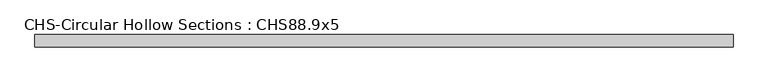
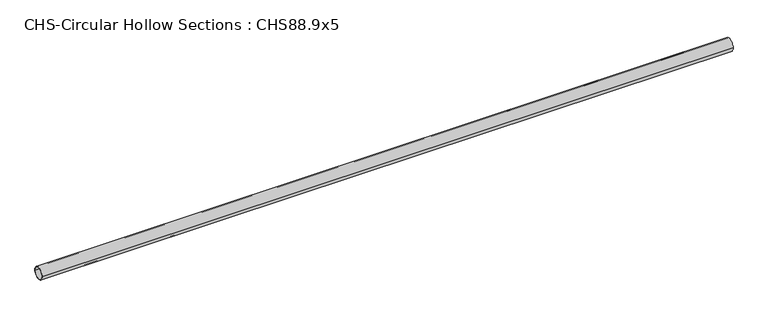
"""IFC4 building model written with IfcOpenShell, lengths in millimetres: beam geometry, CHS-Circular Hollow Sections : CHS88.9x5."""

from ifc_helpers import new_model, si_unit, point, frame, origin, origin_2d, place, context, project, spatial, circle_curve, trimmed, segment, composite_curve, outline, extrude, source, transform, mapped, element, save


def chs_circular_hollow_sections_chs88_9x5_8e8a5487(model_context):
    return source(origin(), model_context, "Body", "SweptSolid", [
        extrude(outline(composite_curve([segment(trimmed(circle_curve(origin_2d(), 44.45), [point((-44.45, 0.0))], [point((44.45, 0.0))], False, "CARTESIAN"), True, "CONTINUOUS"), segment(trimmed(circle_curve(origin_2d(), 44.45), [point((44.45, 0.0))], [point((-44.45, 0.0))], False, "CARTESIAN"), True, "CONTINUOUS")], self_intersect=False), holes=[composite_curve([segment(trimmed(circle_curve(origin_2d(), 39.45), [point((39.45, 0.0))], [point((-39.45, 0.0))], True, "CARTESIAN"), True, "CONTINUOUS"), segment(trimmed(circle_curve(origin_2d(), 39.45), [point((-39.45, 0.0))], [point((39.45, 0.0))], True, "CARTESIAN"), True, "CONTINUOUS")], self_intersect=False)]), frame((-2401.5, 0.0, 0.0), z_axis=(1.0, 0.0, 0.0), x_axis=(0.0, 1.0, 0.0)), (0.0, 0.0, 1.0), 4939.0),
    ])


if __name__ == "__main__":
    model = new_model("IFC4")
    model_context = context("Model", 3, world=origin())
    ifc_project = project(units=[si_unit("LENGTHUNIT", "METRE", prefix="MILLI")], contexts=[model_context])
    site = spatial("IfcSite", under=ifc_project)
    building = spatial("IfcBuilding", under=site)
    placement = place(None, origin())
    chs_circular_hollow_sections_chs88_9x5_shape = chs_circular_hollow_sections_chs88_9x5_8e8a5487(model_context)
    element("IfcBeam", 1, ObjectType="CHS-Circular Hollow Sections : CHS88.9x5", at=placement, inside=building, context=model_context, shape_type="MappedRepresentation", body=[
        mapped(chs_circular_hollow_sections_chs88_9x5_shape, transform((0.0, 0.0, 0.0), x_axis=(1.0, 0.0, 0.0), y_axis=(0.0, 1.0, 0.0), z_axis=(0.0, 0.0, 1.0))),
    ])
    save(model, "model.ifc")
